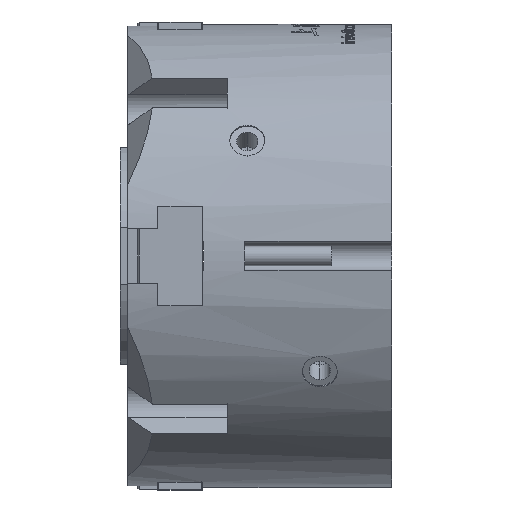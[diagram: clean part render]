
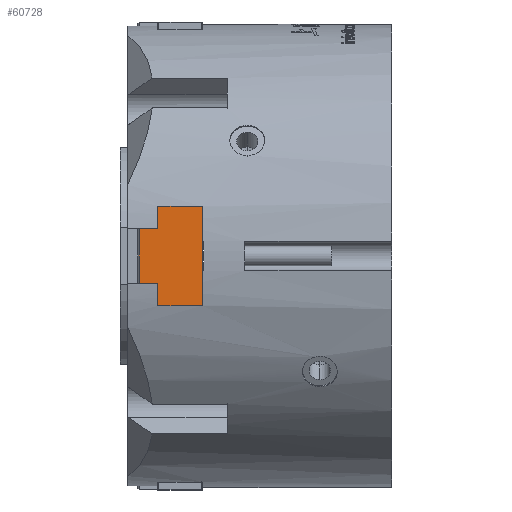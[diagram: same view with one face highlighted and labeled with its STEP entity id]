
A CAD part, left-side view. The second image highlights one B-rep face of the part: STEP entity #60728.
In plain terms, the highlighted planar face has unit normal (-1, 0, 0) as drawn and (1, 0, 0) by its records, which use the part's own axes.
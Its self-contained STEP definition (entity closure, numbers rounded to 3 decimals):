
#1611 = CARTESIAN_POINT ( 'NONE',  ( 0., 18., 19.5 ) ) ;
#3463 = VERTEX_POINT ( 'NONE', #21762 ) ;
#4378 = VERTEX_POINT ( 'NONE', #66591 ) ;
#5305 = CARTESIAN_POINT ( 'NONE',  ( 0., 0.5, -20. ) ) ;
#5503 = DIRECTION ( 'NONE',  ( 0., 1., 0. ) ) ;
#6242 = VECTOR ( 'NONE', #93245, 1000. ) ;
#7332 = CARTESIAN_POINT ( 'NONE',  ( 0., 0.5, -20. ) ) ;
#7379 = CARTESIAN_POINT ( 'NONE',  ( 0., 18., 20. ) ) ;
#7384 = DIRECTION ( 'NONE',  ( 0., 0., -1. ) ) ;
#7464 = VERTEX_POINT ( 'NONE', #86530 ) ;
#9478 = CARTESIAN_POINT ( 'NONE',  ( 0., 25.5, 20. ) ) ;
#10091 = DIRECTION ( 'NONE',  ( 0., -1., 0. ) ) ;
#11561 = VECTOR ( 'NONE', #32831, 1000. ) ;
#14565 = FACE_OUTER_BOUND ( 'NONE', #32386, .T. ) ;
#15344 = CARTESIAN_POINT ( 'NONE',  ( 0., 25.5, -20. ) ) ;
#16613 = VERTEX_POINT ( 'NONE', #93642 ) ;
#18064 = EDGE_CURVE ( 'NONE', #59189, #55683, #107001, .T. ) ;
#19548 = ORIENTED_EDGE ( 'NONE', *, *, #69699, .F. ) ;
#21762 = CARTESIAN_POINT ( 'NONE',  ( 0., 0.5, 20. ) ) ;
#23363 = CARTESIAN_POINT ( 'NONE',  ( 0., 0., 19.5 ) ) ;
#24044 = CARTESIAN_POINT ( 'NONE',  ( 0., 25.5, 11. ) ) ;
#25827 = DIRECTION ( 'NONE',  ( 0., 0., -1. ) ) ;
#27634 = ORIENTED_EDGE ( 'NONE', *, *, #108912, .F. ) ;
#29950 = LINE ( 'NONE', #9478, #58342 ) ;
#30516 = CARTESIAN_POINT ( 'NONE',  ( 0., 17.5, 20. ) ) ;
#30977 = LINE ( 'NONE', #7332, #53960 ) ;
#31758 = EDGE_CURVE ( 'NONE', #55683, #7464, #30977, .T. ) ;
#32386 = EDGE_LOOP ( 'NONE', ( #85891, #27634, #32597, #102951, #78233, #82174, #19548, #58550, #89513, #84879, #93236, #42873 ) ) ;
#32597 = ORIENTED_EDGE ( 'NONE', *, *, #73835, .F. ) ;
#32831 = DIRECTION ( 'NONE',  ( 0., 0.707, 0.707 ) ) ;
#35429 = VECTOR ( 'NONE', #10091, 1000. ) ;
#36431 = LINE ( 'NONE', #1611, #79668 ) ;
#36740 = DIRECTION ( 'NONE',  ( 0., 0., 1. ) ) ;
#37557 = VECTOR ( 'NONE', #79813, 1000. ) ;
#38537 = VECTOR ( 'NONE', #25827, 1000. ) ;
#41081 = EDGE_CURVE ( 'NONE', #70097, #59119, #29950, .T. ) ;
#41745 = CARTESIAN_POINT ( 'NONE',  ( 0., 0., 20. ) ) ;
#42192 = DIRECTION ( 'NONE',  ( 0., 1., 0. ) ) ;
#42873 = ORIENTED_EDGE ( 'NONE', *, *, #99535, .F. ) ;
#43188 = PLANE ( 'NONE',  #52548 ) ;
#43314 = VERTEX_POINT ( 'NONE', #46951 ) ;
#46951 = CARTESIAN_POINT ( 'NONE',  ( 0., 18., -19.5 ) ) ;
#48365 = LINE ( 'NONE', #81080, #86171 ) ;
#51881 = LINE ( 'NONE', #41745, #72142 ) ;
#52185 = LINE ( 'NONE', #84581, #6242 ) ;
#52548 = AXIS2_PLACEMENT_3D ( 'NONE', #58691, #88482, #36740 ) ;
#53960 = VECTOR ( 'NONE', #111471, 1000. ) ;
#55683 = VERTEX_POINT ( 'NONE', #5305 ) ;
#57813 = LINE ( 'NONE', #97143, #37557 ) ;
#58342 = VECTOR ( 'NONE', #95925, 1000. ) ;
#58550 = ORIENTED_EDGE ( 'NONE', *, *, #75834, .F. ) ;
#58691 = CARTESIAN_POINT ( 'NONE',  ( 0., 25.5, 20. ) ) ;
#59119 = VERTEX_POINT ( 'NONE', #87964 ) ;
#59189 = VERTEX_POINT ( 'NONE', #71691 ) ;
#60728 = ADVANCED_FACE ( 'NONE', ( #14565 ), #43188, .F. ) ;
#60752 = EDGE_CURVE ( 'NONE', #59119, #98970, #57813, .T. ) ;
#61481 = VECTOR ( 'NONE', #42192, 1000. ) ;
#61786 = CARTESIAN_POINT ( 'NONE',  ( 0., 18., -11. ) ) ;
#66591 = CARTESIAN_POINT ( 'NONE',  ( 0., 18., 19.5 ) ) ;
#68936 = VERTEX_POINT ( 'NONE', #30516 ) ;
#69699 = EDGE_CURVE ( 'NONE', #43314, #59189, #52185, .T. ) ;
#70097 = VERTEX_POINT ( 'NONE', #24044 ) ;
#71691 = CARTESIAN_POINT ( 'NONE',  ( 0., 17.5, -20. ) ) ;
#72142 = VECTOR ( 'NONE', #7384, 1000. ) ;
#73835 = EDGE_CURVE ( 'NONE', #110040, #3463, #77758, .T. ) ;
#75474 = EDGE_CURVE ( 'NONE', #16613, #70097, #107394, .T. ) ;
#75834 = EDGE_CURVE ( 'NONE', #98970, #43314, #104677, .T. ) ;
#77758 = LINE ( 'NONE', #23363, #11561 ) ;
#77929 = CARTESIAN_POINT ( 'NONE',  ( 0., 0., 19.5 ) ) ;
#78233 = ORIENTED_EDGE ( 'NONE', *, *, #31758, .F. ) ;
#79416 = DIRECTION ( 'NONE',  ( 0., -0.707, 0.707 ) ) ;
#79668 = VECTOR ( 'NONE', #79416, 1000. ) ;
#79813 = DIRECTION ( 'NONE',  ( 0., -1., 0. ) ) ;
#81080 = CARTESIAN_POINT ( 'NONE',  ( 0., 25.5, 20. ) ) ;
#82174 = ORIENTED_EDGE ( 'NONE', *, *, #18064, .F. ) ;
#84581 = CARTESIAN_POINT ( 'NONE',  ( 0., 17.5, -20. ) ) ;
#84879 = ORIENTED_EDGE ( 'NONE', *, *, #41081, .F. ) ;
#85891 = ORIENTED_EDGE ( 'NONE', *, *, #100016, .T. ) ;
#86171 = VECTOR ( 'NONE', #5503, 1000. ) ;
#86530 = CARTESIAN_POINT ( 'NONE',  ( 0., 0., -19.5 ) ) ;
#87739 = EDGE_CURVE ( 'NONE', #110040, #7464, #51881, .T. ) ;
#87964 = CARTESIAN_POINT ( 'NONE',  ( 0., 25.5, -11. ) ) ;
#88482 = DIRECTION ( 'NONE',  ( -1., 0., 0. ) ) ;
#89513 = ORIENTED_EDGE ( 'NONE', *, *, #60752, .F. ) ;
#93186 = LINE ( 'NONE', #97614, #107995 ) ;
#93236 = ORIENTED_EDGE ( 'NONE', *, *, #75474, .F. ) ;
#93245 = DIRECTION ( 'NONE',  ( 0., -0.707, -0.707 ) ) ;
#93642 = CARTESIAN_POINT ( 'NONE',  ( 0., 18., 11. ) ) ;
#93923 = CARTESIAN_POINT ( 'NONE',  ( 0., 25.5, 11. ) ) ;
#95925 = DIRECTION ( 'NONE',  ( 0., 0., -1. ) ) ;
#97143 = CARTESIAN_POINT ( 'NONE',  ( 0., 25.5, -11. ) ) ;
#97614 = CARTESIAN_POINT ( 'NONE',  ( 0., 18., 20. ) ) ;
#98970 = VERTEX_POINT ( 'NONE', #61786 ) ;
#99535 = EDGE_CURVE ( 'NONE', #4378, #16613, #93186, .T. ) ;
#100016 = EDGE_CURVE ( 'NONE', #4378, #68936, #36431, .T. ) ;
#102951 = ORIENTED_EDGE ( 'NONE', *, *, #87739, .T. ) ;
#104677 = LINE ( 'NONE', #7379, #38537 ) ;
#106270 = DIRECTION ( 'NONE',  ( 0., 0., -1. ) ) ;
#107001 = LINE ( 'NONE', #15344, #35429 ) ;
#107394 = LINE ( 'NONE', #93923, #61481 ) ;
#107995 = VECTOR ( 'NONE', #106270, 1000. ) ;
#108912 = EDGE_CURVE ( 'NONE', #3463, #68936, #48365, .T. ) ;
#110040 = VERTEX_POINT ( 'NONE', #77929 ) ;
#111471 = DIRECTION ( 'NONE',  ( 0., -0.707, 0.707 ) ) ;
